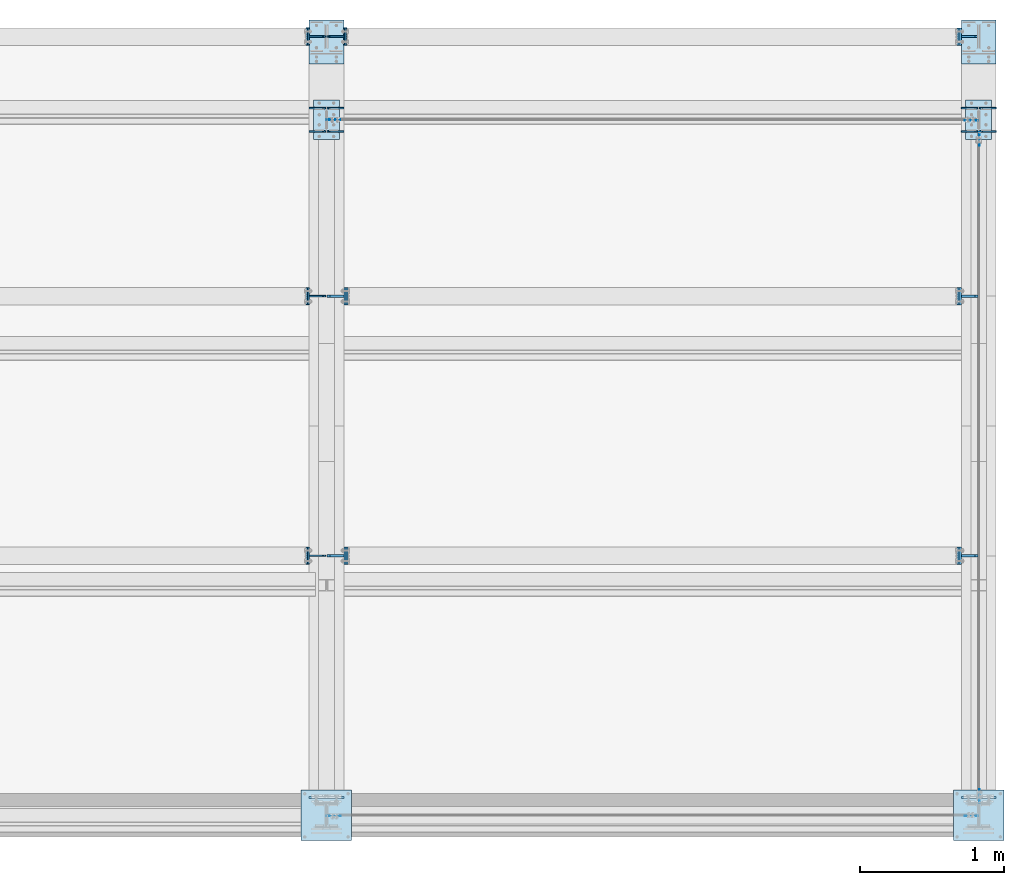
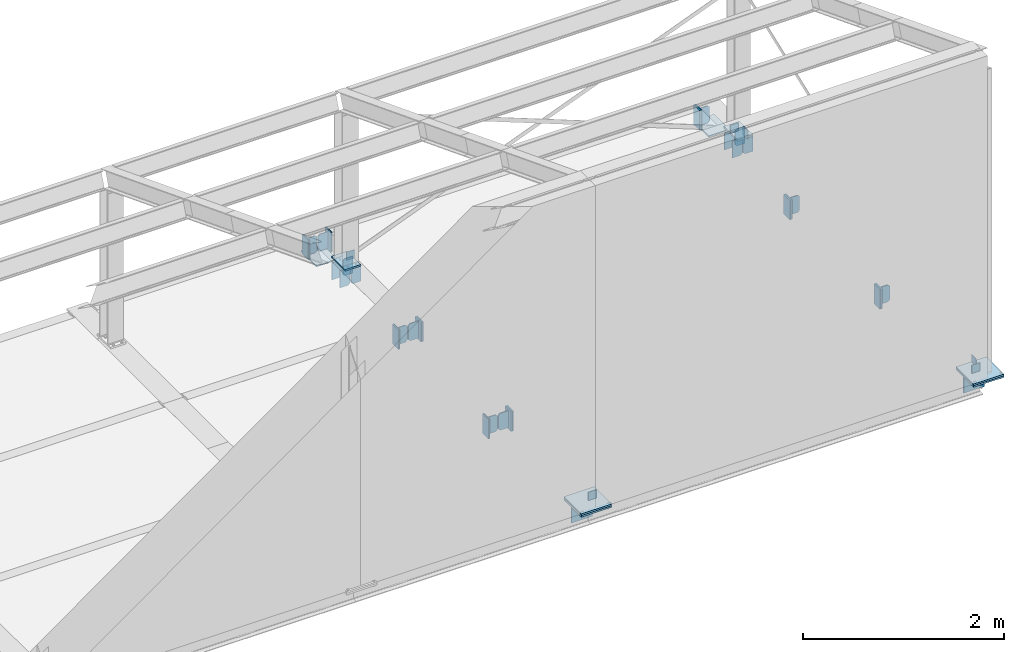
# One storey, part 6 of 66: 51 plates.
"""IFC4 building model written with IfcOpenShell, lengths in metres."""

from ifc_helpers import new_model, si_unit, frame, origin_with_axes, place, context, project, spatial, polyline, outline, extrude, type_object, element, save


model = new_model("IFC4")

# Units and contexts
model_context = context("Model", 3, precision=1e-05, world=origin_with_axes())
ifc_project = project(units=[si_unit("LENGTHUNIT", "METRE"), si_unit("AREAUNIT", "SQUARE_METRE"), si_unit("VOLUMEUNIT", "CUBIC_METRE"), si_unit("MASSUNIT", "GRAM", prefix="KILO"), si_unit("TIMEUNIT", "SECOND"), si_unit("PLANEANGLEUNIT", "RADIAN"), si_unit("SOLIDANGLEUNIT", "STERADIAN"), si_unit("THERMODYNAMICTEMPERATUREUNIT", "DEGREE_CELSIUS")], contexts=[model_context])

# Site, building, storey
placement_1 = place(None, origin_with_axes())
site = spatial("IfcSite", under=ifc_project, at=placement_1, Name="Italia", CompositionType="ELEMENT")
building = spatial("IfcBuilding", under=site, at=placement_1, Name="Uffici", CompositionType="ELEMENT")
storey_placement = place(None, frame((0.0, 0.0, 3.299999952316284), z_axis=(0.0, 0.0, 1.0), x_axis=(1.0, 0.0, 0.0)))
storey = spatial("IfcBuildingStorey", under=building, at=storey_placement, Name="Storey 1", CompositionType="ELEMENT", Elevation=3.299999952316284)

# Plates
plate_type_1 = type_object("IfcPlateType", Name="Collegamento -004_-003", PredefinedType="SHEET")
placement_2 = place(placement_1, origin_with_axes())
plate_1_placement = place(placement_2, origin_with_axes())
element("IfcPlate", 1, at=plate_1_placement, inside=storey, type_object=plate_type_1, Name="Collegamento -004_-003", context=model_context, shape_type="SweptSolid", body=[
    extrude(outline(polyline([(0.0, 0.0), (-0.12, 0.0), (-0.12, 0.24), (0.0, 0.24), (0.0, 0.0)])), frame((9.325, 1.85667, 3.06), z_axis=(1.0, 0.0, 0.0), x_axis=(0.0, 1.0, 0.0)), (0.0, 0.0, 1.0), 0.0100002),
])
plate_type_2 = type_object("IfcPlateType", Name="Collegamento -004_-003", PredefinedType="SHEET")
plate_2_placement = place(placement_2, origin_with_axes())
element("IfcPlate", 2, at=plate_2_placement, inside=storey, type_object=plate_type_2, Name="Collegamento -004_-003", context=model_context, shape_type="SweptSolid", body=[
    extrude(outline(polyline([(0.0, 0.0), (-0.12, 0.0), (-0.12, 0.24), (0.0, 0.24), (0.0, 0.0)])), frame((9.315, 1.85667, 3.06), z_axis=(1.0, 0.0, 0.0), x_axis=(0.0, 1.0, 0.0)), (0.0, 0.0, 1.0), 0.0100002),
])
plate_type_3 = type_object("IfcPlateType", Name="Collegamento -004_-003", PredefinedType="SHEET")
plate_3_placement = place(placement_2, origin_with_axes())
element("IfcPlate", 3, at=plate_3_placement, inside=storey, type_object=plate_type_3, Name="Collegamento -004_-003", context=model_context, shape_type="SweptSolid", body=[
    extrude(outline(polyline([(0.0, 0.0), (0.0939999, 0.0), (0.115, 0.0210001), (0.115, 0.185), (0.0939999, 0.206), (0.0, 0.206), (0.0, 0.0)])), frame((9.335, 1.80167, 3.077), z_axis=(0.0, -1.0, 0.0), x_axis=(1.0, 0.0, 0.0)), (0.0, 0.0, 1.0), 0.00999999),
])
plate_type_4 = type_object("IfcPlateType", Name="Collegamento -004_-005", PredefinedType="SHEET")
plate_4_placement = place(placement_2, origin_with_axes())
element("IfcPlate", 4, at=plate_4_placement, inside=storey, type_object=plate_type_4, Name="Collegamento -004_-005", context=model_context, shape_type="SweptSolid", body=[
    extrude(outline(polyline([(0.0, 0.0), (-0.12, 0.0), (-0.12, 0.24), (0.0, 0.24), (0.0, 0.0)])), frame((9.59, 1.73667, 3.06), z_axis=(-1.0, 0.0, 0.0), x_axis=(0.0, -1.0, 0.0)), (0.0, 0.0, 1.0), 0.0150003),
])
plate_type_5 = type_object("IfcPlateType", Name="Collegamento -004_-005", PredefinedType="SHEET")
plate_5_placement = place(placement_2, origin_with_axes())
element("IfcPlate", 5, at=plate_5_placement, inside=storey, type_object=plate_type_5, Name="Collegamento -004_-005", context=model_context, shape_type="SweptSolid", body=[
    extrude(outline(polyline([(0.0, 0.0), (-0.12, 0.0), (-0.12, 0.24), (0.0, 0.24), (0.0, 0.0)])), frame((9.605, 1.73667, 3.06), z_axis=(-1.0, 0.0, 0.0), x_axis=(0.0, -1.0, 0.0)), (0.0, 0.0, 1.0), 0.0149994),
])
plate_type_6 = type_object("IfcPlateType", Name="Collegamento -004_-005", PredefinedType="SHEET")
plate_6_placement = place(placement_2, origin_with_axes())
element("IfcPlate", 6, at=plate_6_placement, inside=storey, type_object=plate_type_6, Name="Collegamento -004_-005", context=model_context, shape_type="SweptSolid", body=[
    extrude(outline(polyline([(0.0, 0.0), (0.0939999, 0.0), (0.115, 0.0210001), (0.115, 0.185), (0.0939999, 0.206), (0.0, 0.206), (0.0, 0.0)])), frame((9.575, 1.78917, 3.077), z_axis=(0.0, 1.0, 0.0), x_axis=(-1.0, 0.0, 0.0)), (0.0, 0.0, 1.0), 0.0150001),
])
plate_type_7 = type_object("IfcPlateType", Name="Collegamenti -005_-004 -015_-014 0115_0114", PredefinedType="SHEET")
plate_7_placement = place(placement_2, origin_with_axes())
element("IfcPlate", 7, at=plate_7_placement, inside=storey, type_object=plate_type_7, Name="Collegamenti -005_-004 -015_-014 0115_0114", context=model_context, shape_type="SweptSolid", body=[
    extrude(outline(polyline([(0.0, 0.0), (-0.12, 0.0), (-0.12, 0.24), (0.0, 0.24), (0.0, 0.0)])), frame((13.835, 1.85667, 3.06), z_axis=(1.0, 0.0, 0.0), x_axis=(0.0, 1.0, 0.0)), (0.0, 0.0, 1.0), 0.0150003),
])
plate_type_8 = type_object("IfcPlateType", Name="Collegamenti -005_-004 -015_-014 0115_0114", PredefinedType="SHEET")
plate_8_placement = place(placement_2, origin_with_axes())
element("IfcPlate", 8, at=plate_8_placement, inside=storey, type_object=plate_type_8, Name="Collegamenti -005_-004 -015_-014 0115_0114", context=model_context, shape_type="SweptSolid", body=[
    extrude(outline(polyline([(0.0, 0.0), (-0.12, 0.0), (-0.12, 0.24), (0.0, 0.24), (0.0, 0.0)])), frame((13.82, 1.85667, 3.06), z_axis=(1.0, 0.0, 0.0), x_axis=(0.0, 1.0, 0.0)), (0.0, 0.0, 1.0), 0.0149994),
])
plate_type_9 = type_object("IfcPlateType", Name="Collegamenti -005_-004 -015_-014 0115_0114", PredefinedType="SHEET")
plate_9_placement = place(placement_2, origin_with_axes())
element("IfcPlate", 9, at=plate_9_placement, inside=storey, type_object=plate_type_9, Name="Collegamenti -005_-004 -015_-014 0115_0114", context=model_context, shape_type="SweptSolid", body=[
    extrude(outline(polyline([(0.0, 0.0), (0.0939999, 0.0), (0.115, 0.0210001), (0.115, 0.185), (0.0939999, 0.206), (0.0, 0.206), (0.0, 0.0)])), frame((13.85, 1.80417, 3.077), z_axis=(0.0, -1.0, 0.0), x_axis=(1.0, 0.0, 0.0)), (0.0, 0.0, 1.0), 0.0150001),
])
plate_type_10 = type_object("IfcPlateType", Name="Collegamenti -005_-004 -015_-014 0115_0114", PredefinedType="SHEET")
plate_10_placement = place(placement_2, origin_with_axes())
element("IfcPlate", 10, at=plate_10_placement, inside=storey, type_object=plate_type_10, Name="Collegamenti -005_-004 -015_-014 0115_0114", context=model_context, shape_type="SweptSolid", body=[
    extrude(outline(polyline([(0.0, 0.0), (-0.12, 0.0), (-0.12, 0.24), (0.0, 0.24), (0.0, 0.0)])), frame((13.835, 3.65333, 3.06), z_axis=(1.0, 0.0, 0.0), x_axis=(0.0, 1.0, 0.0)), (0.0, 0.0, 1.0), 0.0150003),
])
plate_type_11 = type_object("IfcPlateType", Name="Collegamenti -005_-004 -015_-014 0115_0114", PredefinedType="SHEET")
plate_11_placement = place(placement_2, origin_with_axes())
element("IfcPlate", 11, at=plate_11_placement, inside=storey, type_object=plate_type_11, Name="Collegamenti -005_-004 -015_-014 0115_0114", context=model_context, shape_type="SweptSolid", body=[
    extrude(outline(polyline([(0.0, 0.0), (-0.12, 0.0), (-0.12, 0.24), (0.0, 0.24), (0.0, 0.0)])), frame((13.82, 3.65333, 3.06), z_axis=(1.0, 0.0, 0.0), x_axis=(0.0, 1.0, 0.0)), (0.0, 0.0, 1.0), 0.0149994),
])
plate_type_12 = type_object("IfcPlateType", Name="Collegamenti -005_-004 -015_-014 0115_0114", PredefinedType="SHEET")
plate_12_placement = place(placement_2, origin_with_axes())
element("IfcPlate", 12, at=plate_12_placement, inside=storey, type_object=plate_type_12, Name="Collegamenti -005_-004 -015_-014 0115_0114", context=model_context, shape_type="SweptSolid", body=[
    extrude(outline(polyline([(0.0, 0.0), (0.0939999, 0.0), (0.115, 0.0210001), (0.115, 0.185), (0.0939999, 0.206), (0.0, 0.206), (0.0, 0.0)])), frame((13.85, 3.60083, 3.077), z_axis=(0.0, -1.0, 0.0), x_axis=(1.0, 0.0, 0.0)), (0.0, 0.0, 1.0), 0.0149999),
])
plate_type_13 = type_object("IfcPlateType", Name="Collegamenti -005_-004 -015_-014 0115_0114", PredefinedType="SHEET")
plate_13_placement = place(placement_2, origin_with_axes())
element("IfcPlate", 13, at=plate_13_placement, inside=storey, type_object=plate_type_13, Name="Collegamenti -005_-004 -015_-014 0115_0114", context=model_context, shape_type="SweptSolid", body=[
    extrude(outline(polyline([(0.0, 0.0), (-0.12, 0.0), (-0.12, 0.24), (0.0, 0.24), (0.0, 0.0)])), frame((13.835, 5.45, 3.06), z_axis=(1.0, 0.0, 0.0), x_axis=(0.0, 1.0, 0.0)), (0.0, 0.0, 1.0), 0.0150003),
])
plate_type_14 = type_object("IfcPlateType", Name="Collegamenti -005_-004 -015_-014 0115_0114", PredefinedType="SHEET")
plate_14_placement = place(placement_2, origin_with_axes())
element("IfcPlate", 14, at=plate_14_placement, inside=storey, type_object=plate_type_14, Name="Collegamenti -005_-004 -015_-014 0115_0114", context=model_context, shape_type="SweptSolid", body=[
    extrude(outline(polyline([(0.0, 0.0), (-0.12, 0.0), (-0.12, 0.24), (0.0, 0.24), (0.0, 0.0)])), frame((13.82, 5.45, 3.06), z_axis=(1.0, 0.0, 0.0), x_axis=(0.0, 1.0, 0.0)), (0.0, 0.0, 1.0), 0.0149994),
])
plate_type_15 = type_object("IfcPlateType", Name="Collegamenti -005_-004 -015_-014 0115_0114", PredefinedType="SHEET")
plate_15_placement = place(placement_2, origin_with_axes())
element("IfcPlate", 15, at=plate_15_placement, inside=storey, type_object=plate_type_15, Name="Collegamenti -005_-004 -015_-014 0115_0114", context=model_context, shape_type="SweptSolid", body=[
    extrude(outline(polyline([(0.0, 0.0), (0.0939999, 0.0), (0.115, 0.0210001), (0.115, 0.185), (0.0939999, 0.206), (0.0, 0.206), (0.0, 0.0)])), frame((13.85, 5.3975, 3.077), z_axis=(0.0, -1.0, 0.0), x_axis=(1.0, 0.0, 0.0)), (0.0, 0.0, 1.0), 0.0150003),
])
plate_type_16 = type_object("IfcPlateType", Name="Collegamento -014_-013", PredefinedType="SHEET")
plate_16_placement = place(placement_2, origin_with_axes())
element("IfcPlate", 16, at=plate_16_placement, inside=storey, type_object=plate_type_16, Name="Collegamento -014_-013", context=model_context, shape_type="SweptSolid", body=[
    extrude(outline(polyline([(0.0, 0.0), (-0.12, 0.0), (-0.12, 0.24), (0.0, 0.24), (0.0, 0.0)])), frame((9.325, 3.65333, 3.06), z_axis=(1.0, 0.0, 0.0), x_axis=(0.0, 1.0, 0.0)), (0.0, 0.0, 1.0), 0.0100002),
])
plate_type_17 = type_object("IfcPlateType", Name="Collegamento -014_-013", PredefinedType="SHEET")
plate_17_placement = place(placement_2, origin_with_axes())
element("IfcPlate", 17, at=plate_17_placement, inside=storey, type_object=plate_type_17, Name="Collegamento -014_-013", context=model_context, shape_type="SweptSolid", body=[
    extrude(outline(polyline([(0.0, 0.0), (-0.12, 0.0), (-0.12, 0.24), (0.0, 0.24), (0.0, 0.0)])), frame((9.315, 3.65333, 3.06), z_axis=(1.0, 0.0, 0.0), x_axis=(0.0, 1.0, 0.0)), (0.0, 0.0, 1.0), 0.0100002),
])
plate_type_18 = type_object("IfcPlateType", Name="Collegamento -014_-013", PredefinedType="SHEET")
plate_18_placement = place(placement_2, origin_with_axes())
element("IfcPlate", 18, at=plate_18_placement, inside=storey, type_object=plate_type_18, Name="Collegamento -014_-013", context=model_context, shape_type="SweptSolid", body=[
    extrude(outline(polyline([(0.0, 0.0), (0.0939999, 0.0), (0.115, 0.0210001), (0.115, 0.185), (0.0939999, 0.206), (0.0, 0.206), (0.0, 0.0)])), frame((9.335, 3.59833, 3.077), z_axis=(0.0, -1.0, 0.0), x_axis=(1.0, 0.0, 0.0)), (0.0, 0.0, 1.0), 0.0100002),
])
plate_type_19 = type_object("IfcPlateType", Name="Collegamento -014_-015", PredefinedType="SHEET")
plate_19_placement = place(placement_2, origin_with_axes())
element("IfcPlate", 19, at=plate_19_placement, inside=storey, type_object=plate_type_19, Name="Collegamento -014_-015", context=model_context, shape_type="SweptSolid", body=[
    extrude(outline(polyline([(0.0, 0.0), (-0.12, 0.0), (-0.12, 0.24), (0.0, 0.24), (0.0, 0.0)])), frame((9.59, 3.53333, 3.06), z_axis=(-1.0, 0.0, 0.0), x_axis=(0.0, -1.0, 0.0)), (0.0, 0.0, 1.0), 0.0150003),
])
plate_type_20 = type_object("IfcPlateType", Name="Collegamento -014_-015", PredefinedType="SHEET")
plate_20_placement = place(placement_2, origin_with_axes())
element("IfcPlate", 20, at=plate_20_placement, inside=storey, type_object=plate_type_20, Name="Collegamento -014_-015", context=model_context, shape_type="SweptSolid", body=[
    extrude(outline(polyline([(0.0, 0.0), (-0.12, 0.0), (-0.12, 0.24), (0.0, 0.24), (0.0, 0.0)])), frame((9.605, 3.53333, 3.06), z_axis=(-1.0, 0.0, 0.0), x_axis=(0.0, -1.0, 0.0)), (0.0, 0.0, 1.0), 0.0149994),
])
plate_type_21 = type_object("IfcPlateType", Name="Collegamento -014_-015", PredefinedType="SHEET")
plate_21_placement = place(placement_2, origin_with_axes())
element("IfcPlate", 21, at=plate_21_placement, inside=storey, type_object=plate_type_21, Name="Collegamento -014_-015", context=model_context, shape_type="SweptSolid", body=[
    extrude(outline(polyline([(0.0, 0.0), (0.0939999, 0.0), (0.115, 0.0210001), (0.115, 0.185), (0.0939999, 0.206), (0.0, 0.206), (0.0, 0.0)])), frame((9.575, 3.58583, 3.077), z_axis=(0.0, 1.0, 0.0), x_axis=(-1.0, 0.0, 0.0)), (0.0, 0.0, 1.0), 0.0149999),
])
plate_type_22 = type_object("IfcPlateType", Name="Collegamenti 0101_-001 0102_-002 0103_-003 0104_-004", PredefinedType="SHEET")
plate_22_placement = place(placement_2, origin_with_axes())
element("IfcPlate", 22, at=plate_22_placement, inside=storey, type_object=plate_type_22, Name="Collegamenti 0101_-001 0102_-002 0103_-003 0104_-004", context=model_context, shape_type="SweptSolid", body=[
    extrude(outline(polyline([(0.0, 0.0), (-0.24, 0.0), (-0.24, 0.287), (0.0, 0.287), (0.0, 0.0)])), frame((9.575, 0.13, 3.013), z_axis=(0.0, -1.0, 0.0), x_axis=(1.0, 0.0, 0.0)), (0.0, 0.0, 1.0), 0.015),
])
plate_type_23 = type_object("IfcPlateType", Name="Collegamenti 0101_0201 0102_0202 0103_0203 0104_0204 0105_0205", PredefinedType="SHEET")
plate_23_placement = place(placement_2, origin_with_axes())
element("IfcPlate", 23, at=plate_23_placement, inside=storey, type_object=plate_type_23, Name="Collegamenti 0101_0201 0102_0202 0103_0203 0104_0204 0105_0205", context=model_context, shape_type="SweptSolid", body=[
    extrude(outline(polyline([(0.0, 0.0), (0.0, 0.35), (0.349, 0.35), (0.349, 0.0), (0.0, 0.0)])), frame((9.28, -0.1745, 3.32), z_axis=(0.0, 0.0, -1.0), x_axis=(0.0, 1.0, 0.0)), (0.0, 0.0, 1.0), 0.02),
])
plate_type_24 = type_object("IfcPlateType", Name="Collegamenti 0101_0201 0102_0202 0103_0203 0104_0204 0105_0205", PredefinedType="SHEET")
plate_24_placement = place(placement_2, origin_with_axes())
element("IfcPlate", 24, at=plate_24_placement, inside=storey, type_object=plate_type_24, Name="Collegamenti 0101_0201 0102_0202 0103_0203 0104_0204 0105_0205", context=model_context, shape_type="SweptSolid", body=[
    extrude(outline(polyline([(0.0, 0.0), (0.0, 0.35), (0.349, 0.35), (0.349, 0.0), (0.0, 0.0)])), frame((9.28, -0.1745, 3.3), z_axis=(0.0, 0.0, -1.0), x_axis=(0.0, 1.0, 0.0)), (0.0, 0.0, 1.0), 0.02),
])
plate_type_25 = type_object("IfcPlateType", Name="Collegamenti 0101_0201 0102_0202 0103_0203 0104_0204 0105_0205", PredefinedType="SHEET")
plate_25_placement = place(placement_2, origin_with_axes())
element("IfcPlate", 25, at=plate_25_placement, inside=storey, type_object=plate_type_25, Name="Collegamenti 0101_0201 0102_0202 0103_0203 0104_0204 0105_0205", context=model_context, shape_type="SweptSolid", body=[
    extrude(outline(polyline([(0.0, 0.0), (0.0, 0.35), (0.349, 0.35), (0.349, 0.0), (0.0, 0.0)])), frame((13.795, -0.1745, 3.32), z_axis=(0.0, 0.0, -1.0), x_axis=(0.0, 1.0, 0.0)), (0.0, 0.0, 1.0), 0.02),
])
plate_type_26 = type_object("IfcPlateType", Name="Collegamenti 0101_0201 0102_0202 0103_0203 0104_0204 0105_0205", PredefinedType="SHEET")
plate_26_placement = place(placement_2, origin_with_axes())
element("IfcPlate", 26, at=plate_26_placement, inside=storey, type_object=plate_type_26, Name="Collegamenti 0101_0201 0102_0202 0103_0203 0104_0204 0105_0205", context=model_context, shape_type="SweptSolid", body=[
    extrude(outline(polyline([(0.0, 0.0), (0.0, 0.35), (0.349, 0.35), (0.349, 0.0), (0.0, 0.0)])), frame((13.795, -0.1745, 3.3), z_axis=(0.0, 0.0, -1.0), x_axis=(0.0, 1.0, 0.0)), (0.0, 0.0, 1.0), 0.02),
])
plate_type_27 = type_object("IfcPlateType", Name="Collegamento 0104_0205", PredefinedType="SHEET")
plate_27_placement = place(placement_2, origin_with_axes())
element("IfcPlate", 27, at=plate_27_placement, inside=storey, type_object=plate_type_27, Name="Collegamento 0104_0205", context=model_context, shape_type="SweptSolid", body=[
    extrude(outline(polyline([(0.0, 0.0), (0.0950003, 4.76837e-07), (0.0950003, -0.0999997), (9.53674e-07, -0.0999999), (0.0, 0.0)])), frame((9.553, -0.0075, 3.41995), z_axis=(0.0, 1.0, 0.0), x_axis=(-1.0, 0.0, 0.0)), (0.0, 0.0, 1.0), 0.005),
])
plate_type_28 = type_object("IfcPlateType", Name="Collegamento 0105_-005", PredefinedType="SHEET")
plate_28_placement = place(placement_2, origin_with_axes())
element("IfcPlate", 28, at=plate_28_placement, inside=storey, type_object=plate_type_28, Name="Collegamento 0105_-005", context=model_context, shape_type="SweptSolid", body=[
    extrude(outline(polyline([(0.0, 0.0), (-0.24, 0.0), (-0.24, 0.287), (0.0, 0.287), (0.0, 0.0)])), frame((14.09, 0.13, 3.013), z_axis=(0.0, -1.0, 0.0), x_axis=(1.0, 0.0, 0.0)), (0.0, 0.0, 1.0), 0.015),
])
plate_type_29 = type_object("IfcPlateType", Name="Collegamento 0105_0204", PredefinedType="SHEET")
plate_29_placement = place(placement_2, origin_with_axes())
element("IfcPlate", 29, at=plate_29_placement, inside=storey, type_object=plate_type_29, Name="Collegamento 0105_0204", context=model_context, shape_type="SweptSolid", body=[
    extrude(outline(polyline([(0.0, 0.0), (-0.0950003, -4.76837e-07), (-0.0950003, -0.100001), (9.53674e-07, -0.1), (0.0, 0.0)])), frame((13.872, -0.0075, 3.42005), z_axis=(0.0, 1.0, 0.0), x_axis=(-1.0, 0.0, 0.0)), (0.0, 0.0, 1.0), 0.005),
])
plate_type_30 = type_object("IfcPlateType", Name="Collegamento 0105_0210", PredefinedType="SHEET")
plate_30_placement = place(placement_2, origin_with_axes())
element("IfcPlate", 30, at=plate_30_placement, inside=storey, type_object=plate_type_30, Name="Collegamento 0105_0210", context=model_context, shape_type="SweptSolid", body=[
    extrude(outline(polyline([(0.0, 0.0), (0.094, 0.0), (0.0939999, -0.0880001), (-1.93715e-07, -0.0880001), (0.0, 0.0)])), frame((13.9775, 0.1795, 3.40811), z_axis=(-1.0, 0.0, 0.0), x_axis=(0.0, -1.0, 0.0)), (0.0, 0.0, 1.0), 0.00500011),
])
plate_type_31 = type_object("IfcPlateType", Name="Collegamento 0109_0209", PredefinedType="SHEET")
plate_31_placement = place(placement_2, origin_with_axes())
element("IfcPlate", 31, at=plate_31_placement, inside=storey, type_object=plate_type_31, Name="Collegamento 0109_0209", context=model_context, shape_type="SweptSolid", body=[
    extrude(outline(polyline([(0.0, 0.0), (0.0, 0.18), (0.271, 0.18), (0.271, 0.0), (0.0, 0.0)])), frame((9.365, 4.679, 3.32), z_axis=(0.0, 0.0, -1.0), x_axis=(0.0, 1.0, 0.0)), (0.0, 0.0, 1.0), 0.02),
])
plate_type_32 = type_object("IfcPlateType", Name="Collegamento 0109_0209", PredefinedType="SHEET")
plate_32_placement = place(placement_2, origin_with_axes())
element("IfcPlate", 32, at=plate_32_placement, inside=storey, type_object=plate_type_32, Name="Collegamento 0109_0209", context=model_context, shape_type="SweptSolid", body=[
    extrude(outline(polyline([(0.0, 0.0), (-0.0939999, 0.0), (-0.115, 0.0209999), (-0.115, 0.185), (-0.0939999, 0.206), (0.0, 0.206), (0.0, 0.0)])), frame((9.335, 4.729, 3.077), z_axis=(0.0, 1.0, 0.0), x_axis=(-1.0, 0.0, 0.0)), (0.0, 0.0, 1.0), 0.00999975),
])
plate_type_33 = type_object("IfcPlateType", Name="Collegamento 0109_0209", PredefinedType="SHEET")
plate_33_placement = place(placement_2, origin_with_axes())
element("IfcPlate", 33, at=plate_33_placement, inside=storey, type_object=plate_type_33, Name="Collegamento 0109_0209", context=model_context, shape_type="SweptSolid", body=[
    extrude(outline(polyline([(0.0, 0.0), (0.0939999, 0.0), (0.115, 0.0209999), (0.115, 0.185), (0.0939999, 0.206), (0.0, 0.206), (0.0, 0.0)])), frame((9.335, 4.9, 3.077), z_axis=(0.0, -1.0, 0.0), x_axis=(1.0, 0.0, 0.0)), (0.0, 0.0, 1.0), 0.00999975),
])
plate_type_34 = type_object("IfcPlateType", Name="Collegamento 0109_0209", PredefinedType="SHEET")
plate_34_placement = place(placement_2, origin_with_axes())
element("IfcPlate", 34, at=plate_34_placement, inside=storey, type_object=plate_type_34, Name="Collegamento 0109_0209", context=model_context, shape_type="SweptSolid", body=[
    extrude(outline(polyline([(0.0, 0.0), (-0.0939999, 0.0), (-0.115, 0.0209999), (-0.115, 0.185), (-0.0939999, 0.206), (0.0, 0.206), (0.0, 0.0)])), frame((9.575, 4.739, 3.077), z_axis=(0.0, -1.0, 0.0), x_axis=(1.0, 0.0, 0.0)), (0.0, 0.0, 1.0), 0.00999975),
])
plate_type_35 = type_object("IfcPlateType", Name="Collegamento 0109_0209", PredefinedType="SHEET")
plate_35_placement = place(placement_2, origin_with_axes())
element("IfcPlate", 35, at=plate_35_placement, inside=storey, type_object=plate_type_35, Name="Collegamento 0109_0209", context=model_context, shape_type="SweptSolid", body=[
    extrude(outline(polyline([(0.0, 0.0), (0.0939999, 0.0), (0.115, 0.0209999), (0.115, 0.185), (0.0939999, 0.206), (0.0, 0.206), (0.0, 0.0)])), frame((9.575, 4.89, 3.077), z_axis=(0.0, 1.0, 0.0), x_axis=(-1.0, 0.0, 0.0)), (0.0, 0.0, 1.0), 0.00999975),
])
plate_type_36 = type_object("IfcPlateType", Name="Collegamento 0109_0210", PredefinedType="SHEET")
plate_36_placement = place(placement_2, origin_with_axes())
element("IfcPlate", 36, at=plate_36_placement, inside=storey, type_object=plate_type_36, Name="Collegamento 0109_0210", context=model_context, shape_type="SweptSolid", body=[
    extrude(outline(polyline([(0.0, 0.0), (0.0939999, 0.0), (0.0939999, -0.0999999), (0.0, -0.0999997), (0.0, 0.0)])), frame((9.552, 4.8125, 3.42005), z_axis=(0.0, 1.0, 0.0), x_axis=(-1.0, 0.0, 0.0)), (0.0, 0.0, 1.0), 0.00500011),
])
plate_type_37 = type_object("IfcPlateType", Name="Collegamento 0110_0205", PredefinedType="SHEET")
plate_37_placement = place(placement_2, origin_with_axes())
element("IfcPlate", 37, at=plate_37_placement, inside=storey, type_object=plate_type_37, Name="Collegamento 0110_0205", context=model_context, shape_type="SweptSolid", body=[
    extrude(outline(polyline([(0.0, 0.0), (-0.0949998, -7.15256e-07), (-0.0949998, -0.1), (0.0, -0.1), (0.0, 0.0)])), frame((13.9775, 4.634, 3.41977), z_axis=(-1.0, 0.0, 0.0), x_axis=(0.0, -1.0, 0.0)), (0.0, 0.0, 1.0), 0.00500011),
])
plate_type_38 = type_object("IfcPlateType", Name="Collegamento 0110_0209", PredefinedType="SHEET")
plate_38_placement = place(placement_2, origin_with_axes())
element("IfcPlate", 38, at=plate_38_placement, inside=storey, type_object=plate_type_38, Name="Collegamento 0110_0209", context=model_context, shape_type="SweptSolid", body=[
    extrude(outline(polyline([(0.0, 0.0), (-0.0950003, 2.38419e-07), (-0.0950003, -0.0999994), (-9.53674e-07, -0.0999994), (0.0, 0.0)])), frame((13.872, 4.8075, 3.42004), z_axis=(0.0, 1.0, 0.0), x_axis=(-1.0, 0.0, 0.0)), (0.0, 0.0, 1.0), 0.00500011),
])
plate_type_39 = type_object("IfcPlateType", Name="Collegamento 0110_0210", PredefinedType="SHEET")
plate_39_placement = place(placement_2, origin_with_axes())
element("IfcPlate", 39, at=plate_39_placement, inside=storey, type_object=plate_type_39, Name="Collegamento 0110_0210", context=model_context, shape_type="SweptSolid", body=[
    extrude(outline(polyline([(0.0, 0.0), (0.0, 0.18), (0.271, 0.18), (0.271, 0.0), (0.0, 0.0)])), frame((13.88, 4.679, 3.32), z_axis=(0.0, 0.0, -1.0), x_axis=(0.0, 1.0, 0.0)), (0.0, 0.0, 1.0), 0.02),
])
plate_type_40 = type_object("IfcPlateType", Name="Collegamento 0110_0210", PredefinedType="SHEET")
plate_40_placement = place(placement_2, origin_with_axes())
element("IfcPlate", 40, at=plate_40_placement, inside=storey, type_object=plate_type_40, Name="Collegamento 0110_0210", context=model_context, shape_type="SweptSolid", body=[
    extrude(outline(polyline([(0.0, 0.0), (-0.0939999, 0.0), (-0.115, 0.0209999), (-0.115, 0.185), (-0.0939999, 0.206), (0.0, 0.206), (0.0, 0.0)])), frame((13.85, 4.729, 3.077), z_axis=(0.0, 1.0, 0.0), x_axis=(-1.0, 0.0, 0.0)), (0.0, 0.0, 1.0), 0.00999975),
])
plate_type_41 = type_object("IfcPlateType", Name="Collegamento 0110_0210", PredefinedType="SHEET")
plate_41_placement = place(placement_2, origin_with_axes())
element("IfcPlate", 41, at=plate_41_placement, inside=storey, type_object=plate_type_41, Name="Collegamento 0110_0210", context=model_context, shape_type="SweptSolid", body=[
    extrude(outline(polyline([(0.0, 0.0), (0.0939999, 0.0), (0.115, 0.0209999), (0.115, 0.185), (0.0939999, 0.206), (0.0, 0.206), (0.0, 0.0)])), frame((13.85, 4.9, 3.077), z_axis=(0.0, -1.0, 0.0), x_axis=(1.0, 0.0, 0.0)), (0.0, 0.0, 1.0), 0.00999975),
])
plate_type_42 = type_object("IfcPlateType", Name="Collegamento 0110_0210", PredefinedType="SHEET")
plate_42_placement = place(placement_2, origin_with_axes())
element("IfcPlate", 42, at=plate_42_placement, inside=storey, type_object=plate_type_42, Name="Collegamento 0110_0210", context=model_context, shape_type="SweptSolid", body=[
    extrude(outline(polyline([(0.0, 0.0), (-0.0939999, 0.0), (-0.115, 0.0209999), (-0.115, 0.185), (-0.0939999, 0.206), (0.0, 0.206), (0.0, 0.0)])), frame((14.09, 4.739, 3.077), z_axis=(0.0, -1.0, 0.0), x_axis=(1.0, 0.0, 0.0)), (0.0, 0.0, 1.0), 0.00999975),
])
plate_type_43 = type_object("IfcPlateType", Name="Collegamento 0110_0210", PredefinedType="SHEET")
plate_43_placement = place(placement_2, origin_with_axes())
element("IfcPlate", 43, at=plate_43_placement, inside=storey, type_object=plate_type_43, Name="Collegamento 0110_0210", context=model_context, shape_type="SweptSolid", body=[
    extrude(outline(polyline([(0.0, 0.0), (0.0939999, 0.0), (0.115, 0.0209999), (0.115, 0.185), (0.0939999, 0.206), (0.0, 0.206), (0.0, 0.0)])), frame((14.09, 4.89, 3.077), z_axis=(0.0, 1.0, 0.0), x_axis=(-1.0, 0.0, 0.0)), (0.0, 0.0, 1.0), 0.00999975),
])
plate_type_44 = type_object("IfcPlateType", Name="Collegamenti 0111_0011 0112_0012 0113_0013 0114_0014 0115_0015", PredefinedType="SHEET")
plate_44_placement = place(placement_2, origin_with_axes())
element("IfcPlate", 44, at=plate_44_placement, inside=storey, type_object=plate_type_44, Name="Collegamenti 0111_0011 0112_0012 0113_0013 0114_0014 0115_0015", context=model_context, shape_type="SweptSolid", body=[
    extrude(outline(polyline([(0.0, 0.0), (0.0, 0.24), (0.303, 0.24), (0.303, 0.0), (0.0, 0.0)])), frame((9.575, 5.202, 3.045), z_axis=(0.0, 0.0, 1.0), x_axis=(0.0, 1.0, 0.0)), (0.0, 0.0, 1.0), 0.0150001),
])
plate_type_45 = type_object("IfcPlateType", Name="Collegamenti 0111_0011 0112_0012 0113_0013 0114_0014 0115_0015", PredefinedType="SHEET")
plate_45_placement = place(placement_2, origin_with_axes())
element("IfcPlate", 45, at=plate_45_placement, inside=storey, type_object=plate_type_45, Name="Collegamenti 0111_0011 0112_0012 0113_0013 0114_0014 0115_0015", context=model_context, shape_type="SweptSolid", body=[
    extrude(outline(polyline([(0.0, 0.0), (0.0, 0.24), (0.303, 0.24), (0.303, 0.0), (0.0, 0.0)])), frame((14.09, 5.202, 3.045), z_axis=(0.0, 0.0, 1.0), x_axis=(0.0, 1.0, 0.0)), (0.0, 0.0, 1.0), 0.0150001),
])
plate_type_46 = type_object("IfcPlateType", Name="Collegamento 0114_0113", PredefinedType="SHEET")
plate_46_placement = place(placement_2, origin_with_axes())
element("IfcPlate", 46, at=plate_46_placement, inside=storey, type_object=plate_type_46, Name="Collegamento 0114_0113", context=model_context, shape_type="SweptSolid", body=[
    extrude(outline(polyline([(0.0, 0.0), (-0.12, 0.0), (-0.12, 0.24), (0.0, 0.24), (0.0, 0.0)])), frame((9.325, 5.45, 3.06), z_axis=(1.0, 0.0, 0.0), x_axis=(0.0, 1.0, 0.0)), (0.0, 0.0, 1.0), 0.0100002),
])
plate_type_47 = type_object("IfcPlateType", Name="Collegamento 0114_0113", PredefinedType="SHEET")
plate_47_placement = place(placement_2, origin_with_axes())
element("IfcPlate", 47, at=plate_47_placement, inside=storey, type_object=plate_type_47, Name="Collegamento 0114_0113", context=model_context, shape_type="SweptSolid", body=[
    extrude(outline(polyline([(0.0, 0.0), (-0.12, 0.0), (-0.12, 0.24), (0.0, 0.24), (0.0, 0.0)])), frame((9.315, 5.45, 3.06), z_axis=(1.0, 0.0, 0.0), x_axis=(0.0, 1.0, 0.0)), (0.0, 0.0, 1.0), 0.0100002),
])
plate_type_48 = type_object("IfcPlateType", Name="Collegamento 0114_0113", PredefinedType="SHEET")
plate_48_placement = place(placement_2, origin_with_axes())
element("IfcPlate", 48, at=plate_48_placement, inside=storey, type_object=plate_type_48, Name="Collegamento 0114_0113", context=model_context, shape_type="SweptSolid", body=[
    extrude(outline(polyline([(0.0, 0.0), (0.0939999, 0.0), (0.115, 0.0210001), (0.115, 0.185), (0.0939999, 0.206), (0.0, 0.206), (0.0, 0.0)])), frame((9.335, 5.395, 3.077), z_axis=(0.0, -1.0, 0.0), x_axis=(1.0, 0.0, 0.0)), (0.0, 0.0, 1.0), 0.0100002),
])
plate_type_49 = type_object("IfcPlateType", Name="Collegamento 0114_0115", PredefinedType="SHEET")
plate_49_placement = place(placement_2, origin_with_axes())
element("IfcPlate", 49, at=plate_49_placement, inside=storey, type_object=plate_type_49, Name="Collegamento 0114_0115", context=model_context, shape_type="SweptSolid", body=[
    extrude(outline(polyline([(0.0, 0.0), (-0.12, 0.0), (-0.12, 0.24), (0.0, 0.24), (0.0, 0.0)])), frame((9.585, 5.33, 3.06), z_axis=(-1.0, 0.0, 0.0), x_axis=(0.0, -1.0, 0.0)), (0.0, 0.0, 1.0), 0.0100002),
])
plate_type_50 = type_object("IfcPlateType", Name="Collegamento 0114_0115", PredefinedType="SHEET")
plate_50_placement = place(placement_2, origin_with_axes())
element("IfcPlate", 50, at=plate_50_placement, inside=storey, type_object=plate_type_50, Name="Collegamento 0114_0115", context=model_context, shape_type="SweptSolid", body=[
    extrude(outline(polyline([(0.0, 0.0), (-0.12, 0.0), (-0.12, 0.24), (0.0, 0.24), (0.0, 0.0)])), frame((9.595, 5.33, 3.06), z_axis=(-1.0, 0.0, 0.0), x_axis=(0.0, -1.0, 0.0)), (0.0, 0.0, 1.0), 0.0100002),
])
plate_type_51 = type_object("IfcPlateType", Name="Collegamento 0114_0115", PredefinedType="SHEET")
plate_51_placement = place(placement_2, origin_with_axes())
element("IfcPlate", 51, at=plate_51_placement, inside=storey, type_object=plate_type_51, Name="Collegamento 0114_0115", context=model_context, shape_type="SweptSolid", body=[
    extrude(outline(polyline([(0.0, 0.0), (0.0939999, 0.0), (0.115, 0.0210001), (0.115, 0.185), (0.0939999, 0.206), (0.0, 0.206), (0.0, 0.0)])), frame((9.575, 5.385, 3.077), z_axis=(0.0, 1.0, 0.0), x_axis=(-1.0, 0.0, 0.0)), (0.0, 0.0, 1.0), 0.0100002),
])

save(model, "model.ifc")
